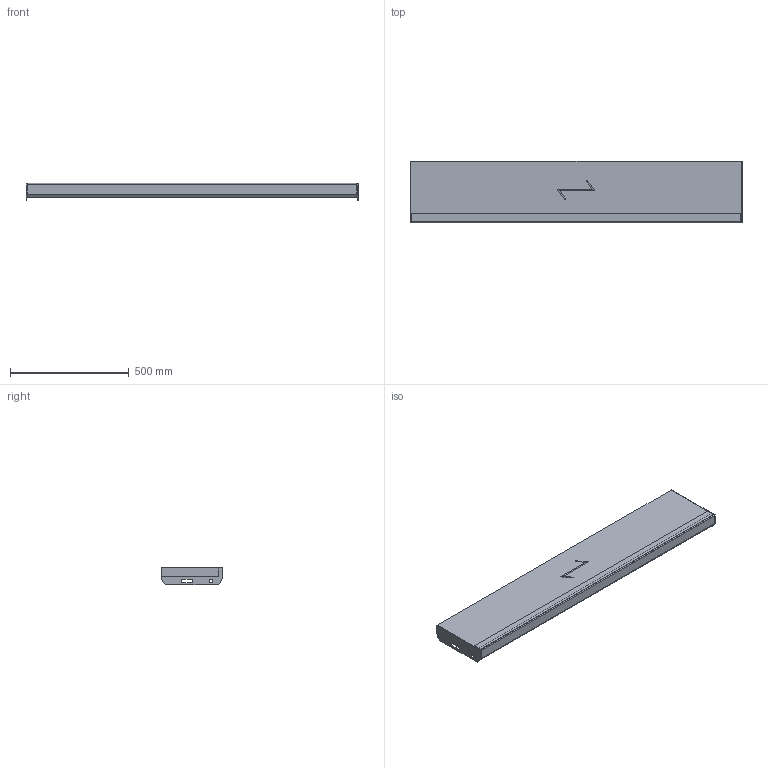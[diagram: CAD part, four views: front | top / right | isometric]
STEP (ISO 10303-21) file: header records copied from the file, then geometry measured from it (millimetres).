
FILE_DESCRIPTION (( 'STEP AP203' ), '1' );
FILE_NAME ('StegTH6-S-nya_steget-1400x260.STEP', '2020-03-04T07:46:32', ( '' ), ( '' ), 'SwSTEP 2.0', 'SolidWorks 2019', '' );
FILE_SCHEMA (( 'CONFIG_CONTROL_DESIGN' ));
Length unit declared in the file: millimetre
Products named in the file (5): SW0000039257; SW0000038702; SW0000038994; StegTH6-S-nya_steget-1400x260; SW0000039587
Assembly tree (5 placements, depth 3):
  StegTH6-S-nya_steget-1400x260
    SW0000039587
      SW0000038994
      SW0000039257
      SW0000038702  x2
Bounding box: 1400 x 260 x 72 mm (x, y, z)
Volume: 12231220.6 mm3; surface area: 1144256.9 mm2
Topology: 4 solids, 4 shells, 67 faces, 158 edges, 100 vertices
Faces by surface type: plane 51, cylinder 16
Entity records: 2002 total; most frequent: DIRECTION 261, CARTESIAN_POINT 254, ORIENTED_EDGE 238, EDGE_CURVE 119, LINE 99, VECTOR 99, AXIS2_PLACEMENT_3D 81, VERTEX_POINT 74
